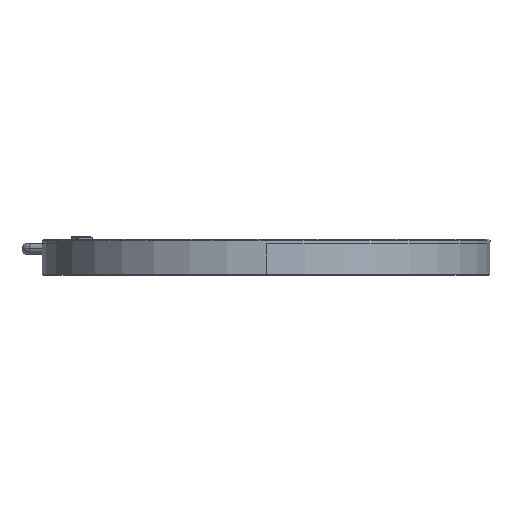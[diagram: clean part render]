
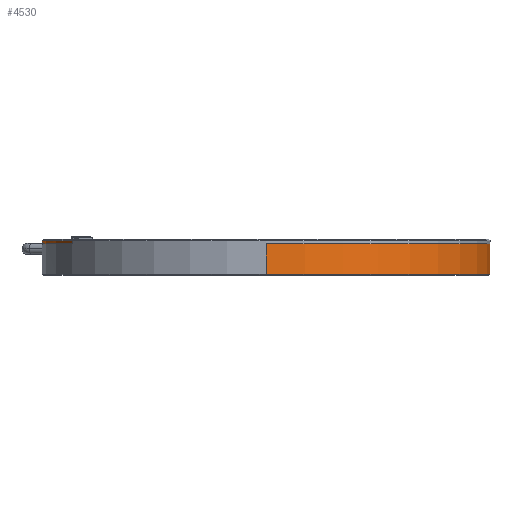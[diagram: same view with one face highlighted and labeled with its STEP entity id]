
A CAD part, front view. The second image highlights one B-rep face of the part: STEP entity #4530.
In plain terms, the highlighted cylindrical face has radius 100 mm (diameter 200 mm), a partial arc.
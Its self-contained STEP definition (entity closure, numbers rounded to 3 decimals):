
#592=CARTESIAN_POINT('',(0.,0.,-13.5));
#593=DIRECTION('',(0.,0.,-1.));
#594=DIRECTION('',(0.,1.,0.));
#595=AXIS2_PLACEMENT_3D('',#592,#593,#594);
#597=CARTESIAN_POINT('',(-87.142,49.053,0.));
#598=CARTESIAN_POINT('',(-87.121,49.09,0.02));
#599=CARTESIAN_POINT('',(-87.079,49.165,0.059));
#600=CARTESIAN_POINT('',(-87.015,49.279,0.11));
#601=CARTESIAN_POINT('',(-86.948,49.396,0.153));
#602=CARTESIAN_POINT('',(-86.881,49.515,0.188));
#603=CARTESIAN_POINT('',(-86.812,49.635,0.216));
#604=CARTESIAN_POINT('',(-86.743,49.756,0.235));
#605=CARTESIAN_POINT('',(-86.673,49.878,0.247));
#606=CARTESIAN_POINT('',(-86.603,50.,0.251));
#607=CARTESIAN_POINT('',(-86.532,50.122,0.247));
#608=CARTESIAN_POINT('',(-86.462,50.244,0.235));
#609=CARTESIAN_POINT('',(-86.391,50.364,0.216));
#610=CARTESIAN_POINT('',(-86.322,50.484,0.188));
#611=CARTESIAN_POINT('',(-86.253,50.601,0.153));
#612=CARTESIAN_POINT('',(-86.185,50.717,0.11));
#613=CARTESIAN_POINT('',(-86.118,50.831,0.059));
#614=CARTESIAN_POINT('',(-86.074,50.904,0.02));
#615=CARTESIAN_POINT('',(-86.053,50.941,0.));
#617=DIRECTION('',(0.,0.,1.));
#618=VECTOR('',#617,13.5);
#619=CARTESIAN_POINT('',(0.,100.,-13.5));
#620=LINE('',#619,#618);
#621=DIRECTION('',(0.,0.,-1.));
#622=VECTOR('',#621,13.5);
#623=CARTESIAN_POINT('',(0.,-100.,0.));
#624=LINE('',#623,#622);
#625=CARTESIAN_POINT('',(0.,0.,0.));
#626=DIRECTION('',(0.,0.,1.));
#627=DIRECTION('',(0.,-1.,0.));
#628=AXIS2_PLACEMENT_3D('',#625,#626,#627);
#630=DIRECTION('',(0.,0.,-1.));
#631=VECTOR('',#630,1.5);
#632=CARTESIAN_POINT('',(86.603,50.,1.5));
#633=LINE('',#632,#631);
#634=DIRECTION('',(0.,0.,1.));
#635=VECTOR('',#634,1.5);
#636=CARTESIAN_POINT('',(-86.603,-50.,0.));
#637=LINE('',#636,#635);
#751=CARTESIAN_POINT('',(0.,0.,0.));
#752=DIRECTION('',(0.,0.,-1.));
#753=DIRECTION('',(-0.877,0.48,0.));
#754=AXIS2_PLACEMENT_3D('',#751,#752,#753);
#756=CARTESIAN_POINT('',(0.,0.,0.));
#757=DIRECTION('',(0.,0.,-1.));
#758=DIRECTION('',(-0.861,0.509,0.));
#759=AXIS2_PLACEMENT_3D('',#756,#757,#758);
#863=CARTESIAN_POINT('',(0.,0.,0.));
#864=DIRECTION('',(0.,0.,1.));
#865=DIRECTION('',(-0.877,0.48,0.));
#866=AXIS2_PLACEMENT_3D('',#863,#864,#865);
#868=CARTESIAN_POINT('',(0.,0.,0.));
#869=DIRECTION('',(0.,0.,1.));
#870=DIRECTION('',(0.,1.,0.));
#871=AXIS2_PLACEMENT_3D('',#868,#869,#870);
#955=CARTESIAN_POINT('',(0.,0.,1.5));
#956=DIRECTION('',(0.,0.,1.));
#957=DIRECTION('',(0.866,0.5,0.));
#958=AXIS2_PLACEMENT_3D('',#955,#956,#957);
#2996=CARTESIAN_POINT('',(0.,-100.,-13.5));
#2997=CARTESIAN_POINT('',(0.,100.,-13.5));
#2998=VERTEX_POINT('',#2996);
#2999=VERTEX_POINT('',#2997);
#3072=CARTESIAN_POINT('',(-86.603,-50.,1.5));
#3073=CARTESIAN_POINT('',(86.603,50.,1.5));
#3074=VERTEX_POINT('',#3072);
#3075=VERTEX_POINT('',#3073);
#3625=CARTESIAN_POINT('',(-85.456,51.936,0.));
#3627=VERTEX_POINT('',#3625);
#3628=CARTESIAN_POINT('',(0.,-100.,0.));
#3629=CARTESIAN_POINT('',(86.603,50.,0.));
#3630=VERTEX_POINT('',#3628);
#3631=VERTEX_POINT('',#3629);
#3632=CARTESIAN_POINT('',(0.,100.,0.));
#3633=VERTEX_POINT('',#3632);
#3634=CARTESIAN_POINT('',(-87.706,48.039,0.));
#3635=CARTESIAN_POINT('',(-86.603,-50.,0.));
#3636=VERTEX_POINT('',#3634);
#3637=VERTEX_POINT('',#3635);
#3690=VERTEX_POINT('',#597);
#3691=VERTEX_POINT('',#615);
#4500=CARTESIAN_POINT('',(0.,0.,-12.6));
#4501=DIRECTION('',(0.,0.,1.));
#4502=DIRECTION('',(0.,1.,0.));
#4503=AXIS2_PLACEMENT_3D('',#4500,#4501,#4502);
#4504=CYLINDRICAL_SURFACE('',#4503,100.);
#4506=ORIENTED_EDGE('',*,*,#4505,.T.);
#4508=ORIENTED_EDGE('',*,*,#4507,.T.);
#4510=ORIENTED_EDGE('',*,*,#4509,.F.);
#4512=ORIENTED_EDGE('',*,*,#4511,.F.);
#4513=ORIENTED_EDGE('',*,*,#4495,.T.);
#4515=ORIENTED_EDGE('',*,*,#4514,.F.);
#4517=ORIENTED_EDGE('',*,*,#4516,.T.);
#4519=ORIENTED_EDGE('',*,*,#4518,.F.);
#4521=ORIENTED_EDGE('',*,*,#4520,.T.);
#4523=ORIENTED_EDGE('',*,*,#4522,.F.);
#4525=ORIENTED_EDGE('',*,*,#4524,.F.);
#4527=ORIENTED_EDGE('',*,*,#4526,.T.);
#4528=EDGE_LOOP('',(#4506,#4508,#4510,#4512,#4513,#4515,#4517,#4519,#4521,#4523,
#4525,#4527));
#4529=FACE_OUTER_BOUND('',#4528,.F.);
#4530=ADVANCED_FACE('',(#4529),#4504,.T.);
#596=CIRCLE('',#595,100.);
#616=B_SPLINE_CURVE_WITH_KNOTS('',3,(#597,#598,#599,#600,#601,#602,#603,#604,
#605,#606,#607,#608,#609,#610,#611,#612,#613,#614,#615),.UNSPECIFIED.,.F.,.F.,
(4,1,1,1,1,1,1,1,1,1,1,1,1,1,1,1,4),(0.,0.063,0.125,0.188,0.25,
0.313,0.375,0.438,0.5,0.563,0.625,0.688,0.75,0.813,
0.875,0.938,1.),.UNSPECIFIED.);
#629=CIRCLE('',#628,100.);
#755=CIRCLE('',#754,100.);
#760=CIRCLE('',#759,100.);
#867=CIRCLE('',#866,100.);
#872=CIRCLE('',#871,100.);
#959=CIRCLE('',#958,100.);
#4495=EDGE_CURVE('',#2999,#2998,#596,.T.);
#4505=EDGE_CURVE('',#3690,#3691,#616,.T.);
#4507=EDGE_CURVE('',#3691,#3627,#760,.T.);
#4509=EDGE_CURVE('',#3633,#3627,#872,.T.);
#4511=EDGE_CURVE('',#2999,#3633,#620,.T.);
#4514=EDGE_CURVE('',#3630,#2998,#624,.T.);
#4516=EDGE_CURVE('',#3630,#3631,#629,.T.);
#4518=EDGE_CURVE('',#3075,#3631,#633,.T.);
#4520=EDGE_CURVE('',#3075,#3074,#959,.T.);
#4522=EDGE_CURVE('',#3637,#3074,#637,.T.);
#4524=EDGE_CURVE('',#3636,#3637,#867,.T.);
#4526=EDGE_CURVE('',#3636,#3690,#755,.T.);
